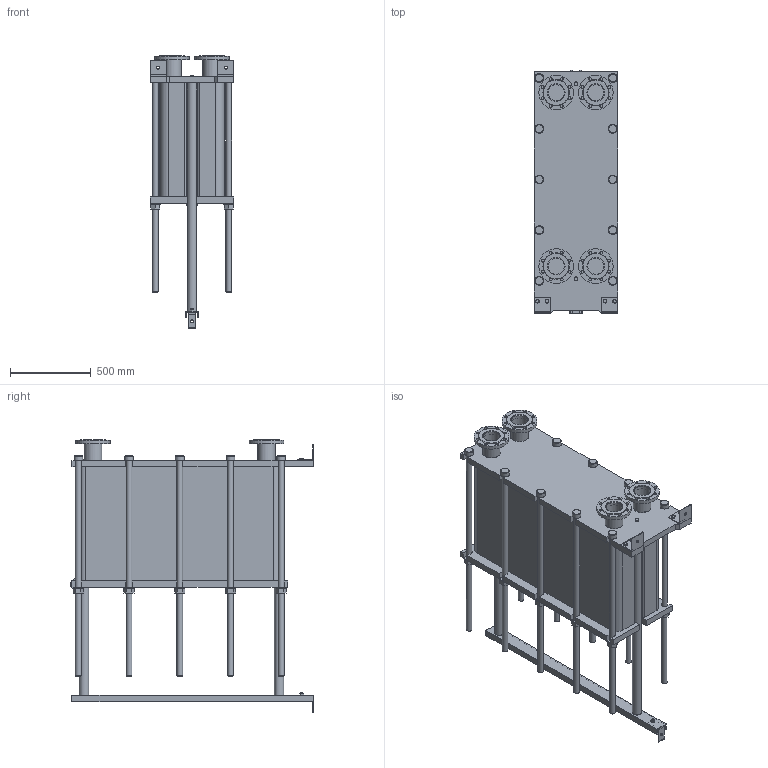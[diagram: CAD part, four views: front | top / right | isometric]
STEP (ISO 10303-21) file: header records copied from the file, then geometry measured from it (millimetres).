
FILE_DESCRIPTION(/* description */ (''),/* implementation_level */ '2;1');
FILE_NAME(/* name */ 'C:\Users\zhuro\Desktop\ENCO\TO\ЭН-04\ЭН-0,5-04-205-1.stp',/* time_stamp */ '2022-06-06T11:04:13+03:00',/* author */ ('zhuro'),/* organization */ (''),/* preprocessor_version */ 'ST-DEVELOPER v18.1',/* originating_system */ 'Autodesk Inventor 2022',/* authorisation */ '');
FILE_SCHEMA (('AUTOMOTIVE_DESIGN { 1 0 10303 214 3 1 1 }'));
Length unit declared in the file: millimetre
Products named in the file (1): ЭН-0,5-04-205-1
Bounding box: 520 x 1510 x 1692.5 mm (x, y, z)
Volume: 430310645.3 mm3; surface area: 10664221.9 mm2
Topology: 45 solids, 45 shells, 668 faces, 1611 edges, 1048 vertices
Faces by surface type: plane 457, cylinder 166, cone 39, torus 6
Full cylindrical faces by diameter (mm): 8 x4, 10 x2, 16 x8, 18 x35, 36 x25, 40 x2, 42 x1, 45 x4, 54 x10, 57 x2, 60 x10, 68 x2, 100 x4, 110 x8, 215 x4
Entity records: 23607 total; most frequent: CARTESIAN_POINT 7348, DIRECTION 3371, ORIENTED_EDGE 3142, EDGE_CURVE 1571, AXIS2_PLACEMENT_3D 1199, VERTEX_POINT 1044, LINE 973, VECTOR 973
